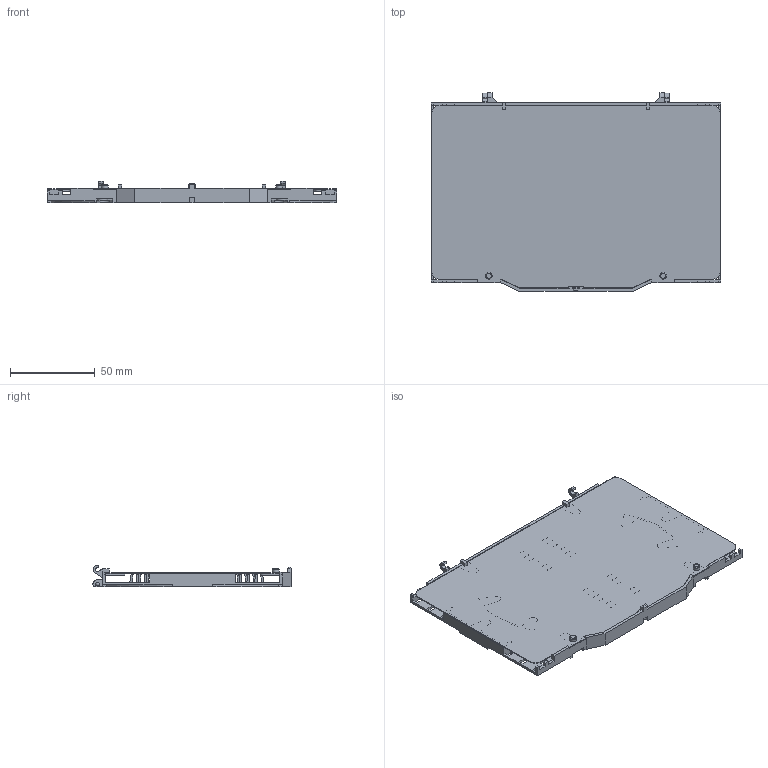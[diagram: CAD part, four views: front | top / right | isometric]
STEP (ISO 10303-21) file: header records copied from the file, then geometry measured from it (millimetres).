
FILE_DESCRIPTION(/* description */ ('STEP AP242','CAx-IF Rec.Pracs.---Representation and Presentation of Product Manufacturing Information (PMI)---4.0---2014-10-13','CAx-IF Rec.Pracs.---3D Tessellated Geometry---0.4---2014-09-14','2;1'),/* implementation_level */ '2;1');
FILE_NAME(/* name */ '686d7f7e3be1e82bb247fdbb',/* time_stamp */ '2025-07-08T20:28:47Z',/* author */ (''),/* organization */ (''),/* preprocessor_version */ 'ST-DEVELOPER v20',/* originating_system */ 'ONSHAPE BY PTC INC, 1.200',/* authorisation */ ' ');
FILE_SCHEMA (('AP242_MANAGED_MODEL_BASED_3D_ENGINEERING_MIM_LF { 1 0 10303 442 1 1 4 }'));
Length unit declared in the file: metre
Products named in the file (3): RLH-FST-06; Splice Tray; Lid
Assembly tree (2 placements, depth 2):
  RLH-FST-06
    Splice Tray
    Lid
Bounding box: 171 x 116.99 x 12.67 mm (x, y, z)
Volume: 42883.4 mm3; surface area: 85368.8 mm2
Topology: 2 solids, 2 shells, 923 faces, 2713 edges, 1803 vertices
Faces by surface type: plane 677, cylinder 238, torus 6, sphere 2
Full cylindrical faces by diameter (mm): 1.7 x2, 2.1 x2, 3.5 x4, 4 x4, 6.5 x4
Entity records: 36885 total; most frequent: CARTESIAN_POINT 5418, ORIENTED_EDGE 5356, DIRECTION 5024, EDGE_CURVE 2678, LINE 2168, VECTOR 2168, VERTEX_POINT 1790, AXIS2_PLACEMENT_3D 1428
